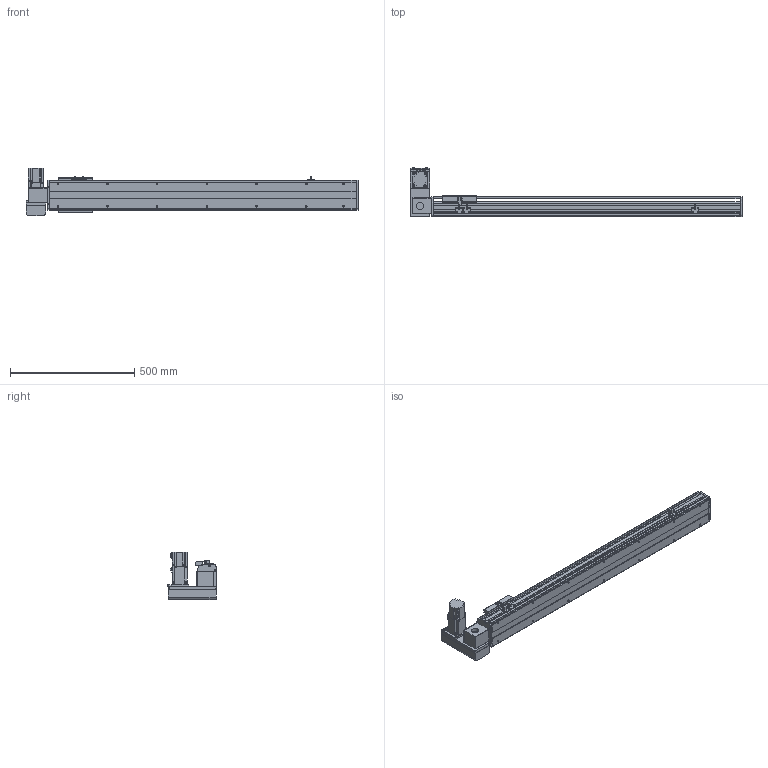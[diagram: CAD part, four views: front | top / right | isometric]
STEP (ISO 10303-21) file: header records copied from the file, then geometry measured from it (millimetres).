
FILE_DESCRIPTION( ( 'STEP AP214' ), '1' );
FILE_NAME( 'x:/temp/worker_27/temp/exporttempdir_6708_108_BZJOl/format_0/PBS120-P40-S950-LU-T40-C1-N(0).stp', '2022-06-06T00:31:25', ( 'License CC BY-ND 4.0' ), ( 'CADENAS' ), ' ', 'PARTsolutions', ' ' );
FILE_SCHEMA( ( 'AUTOMOTIVE_DESIGN { 1 0 10303 214 1 1 1 1 }' ) );
Length unit declared in the file: millimetre
Products named in the file (7): PBS120-P40-S950-LU-T40-C1-N(0); _PBS120-S950()_body; _PBS120T-LU_motors; _T40-p1; _PBS120_sliser; _PBS120_plant; _PBS120_sensor
Assembly tree (8 placements, depth 2):
  PBS120-P40-S950-LU-T40-C1-N(0)
    _PBS120-S950()_body
    _PBS120T-LU_motors
    _T40-p1
    _PBS120_sliser
    _PBS120_plant
    _PBS120_sensor  x3
Bounding box: 1336 x 198 x 189.7 mm (x, y, z)
Volume: 5798548.5 mm3; surface area: 1127829.9 mm2
Topology: 8 solids, 8 shells, 822 faces, 2146 edges, 1381 vertices
Faces by surface type: plane 547, cylinder 227, cone 46, torus 2
Full cylindrical faces by diameter (mm): 2.459 x6, 3.242 x4, 4 x2, 4.134 x4, 4.5 x10, 4.917 x18, 5.5 x11, 6 x2, 6.6 x1, 7 x2, 8.5 x4, 9 x4, 12 x1, 14 x1, 30 x2, 40 x1, 50 x2
Entity records: 27156 total; most frequent: DIRECTION 3716, CARTESIAN_POINT 3659, ORIENTED_EDGE 3490, EDGE_CURVE 1745, AXIS2_PLACEMENT_3D 1244, LINE 1228, VECTOR 1228, VERTEX_POINT 1187
